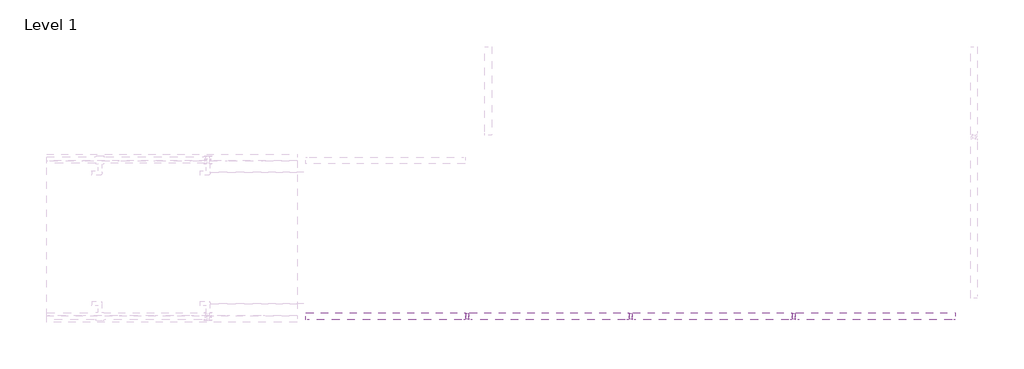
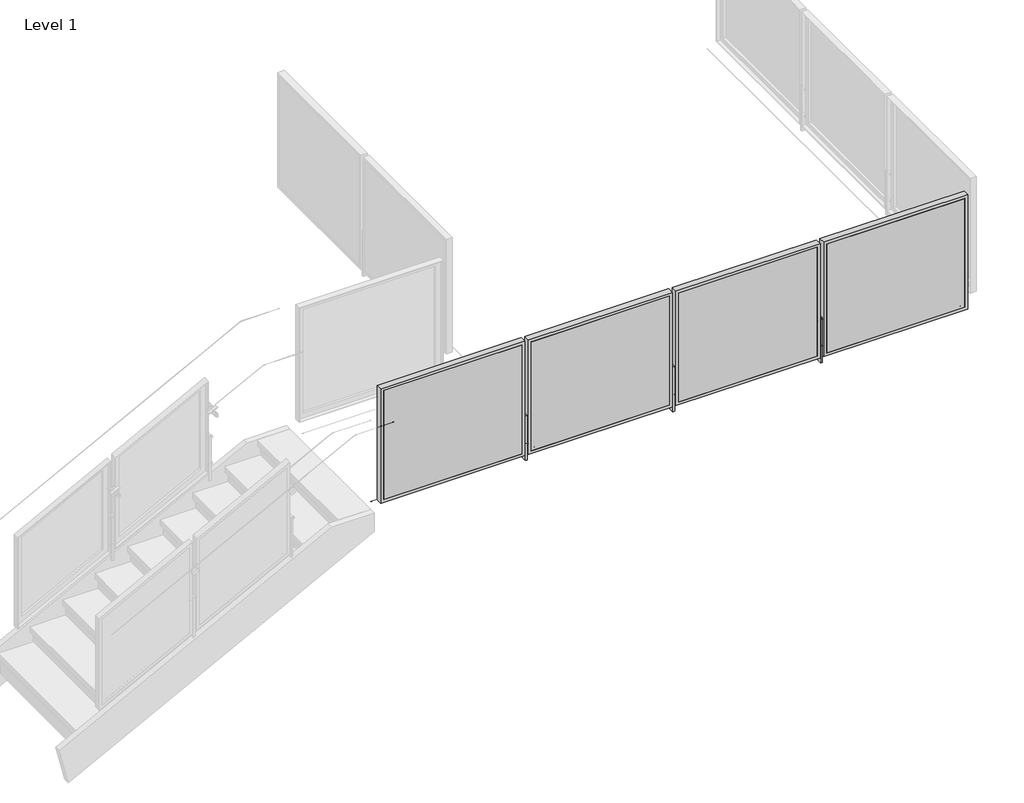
# One storey, part 12 of 37: 1 railing.
"""IFC4 building model written with IfcOpenShell, lengths in millimetres."""

from ifc_helpers import new_model, si_unit, point, frame, frame_2d, origin, place, context, project, spatial, polyline, circle_curve, trimmed, segment, composite_curve, outline, extrude, faceted_brep, element, save
from ifc_brep_helpers import plane_surface, cylinder_surface, advanced_brep

model = new_model("IFC4")

# Units and contexts
model_context = context("Model", 3, world=origin())
ifc_project = project(units=[si_unit("LENGTHUNIT", "METRE", prefix="MILLI")], contexts=[model_context])

# Site, building, storey
site = spatial("IfcSite", under=ifc_project)
building = spatial("IfcBuilding", under=site)
storey = spatial("IfcBuildingStorey", under=building, Name="Level 1", Elevation=0.0)

# Railing
placement = place(None, origin())
element("IfcRailing", 1, ObjectType="Metal-Panel-VIVA-FRAME-Slab-Top-Weld-Straight", at=placement, inside=storey, context=model_context, shape_type="SolidModel", body=[
    extrude(outline(composite_curve([segment(trimmed(circle_curve(frame_2d((-31331.5771681, 3047.746)), 0.254), [point((-31331.8311681, 3047.746))], [point((-31331.3231681, 3047.746))], False, "CARTESIAN"), True, "CONTINUOUS"), segment(trimmed(circle_curve(frame_2d((-31331.5771681, 3047.746)), 0.254), [point((-31331.3231681, 3047.746))], [point((-31331.8311681, 3047.746))], False, "CARTESIAN"), True, "CONTINUOUS")], self_intersect=False)), frame((-7423.2063244, 0.0, 0.0), z_axis=(1.0, 0.0, 0.0), x_axis=(0.0, 1.0, 0.0)), (0.0, 0.0, 1.0), 5080.0),
    extrude(outline(composite_curve([segment(trimmed(circle_curve(frame_2d((-31331.5771681, 3047.746)), 0.254), [point((-31331.8311681, 3047.746))], [point((-31331.3231681, 3047.746))], False, "CARTESIAN"), True, "CONTINUOUS"), segment(trimmed(circle_curve(frame_2d((-31331.5771681, 3047.746)), 0.254), [point((-31331.3231681, 3047.746))], [point((-31331.8311681, 3047.746))], False, "CARTESIAN"), True, "CONTINUOUS")], self_intersect=False)), frame((-7423.2063244, 0.0, 0.0), z_axis=(1.0, 0.0, 0.0), x_axis=(0.0, 1.0, 0.0)), (0.0, 0.0, 1.0), 5080.0),
    extrude(outline(polyline([(-3572.3798675, -31454.3875681), (-3572.3798675, -31451.3875681), (-2384.0327814, -31451.3875681), (-2384.0327814, -31454.3875681), (-3572.3798675, -31454.3875681)])), frame((0.0, 0.0, 3124.1959569), z_axis=(0.0, 0.0, 1.0), x_axis=(1.0, 0.0, 0.0)), (0.0, 0.0, 1.0), 990.5826861),
    faceted_brep([(-3597.7798675, -31454.3875681, 4140.1786431), (-3597.7798675, -31454.3875681, 3098.7959569), (-2358.6327814, -31454.3875681, 3098.7959569), (-2358.6327814, -31454.3875681, 4140.1786431), (-3572.3798675, -31454.3875681, 4114.7786431), (-2384.0327814, -31454.3875681, 4114.7786431), (-2384.0327814, -31454.3875681, 3124.1959569), (-3572.3798675, -31454.3875681, 3124.1959569), (-2384.0327814, -31451.3875681, 3124.1959569), (-3572.3798675, -31451.3875681, 3124.1959569), (-2384.0327814, -31451.3875681, 4114.7786431), (-3572.3798675, -31451.3875681, 4114.7786431), (-3591.7854675, -31400.5875681, 3104.7903569), (-3591.7854675, -31431.3977681, 3104.7903569), (-2364.6271814, -31431.3977681, 3104.7903569), (-2364.6271814, -31400.5875681, 3104.7903569), (-2364.6271814, -31431.3977681, 4134.1842431), (-2364.6271814, -31400.5875681, 4134.1842431), (-3591.7854675, -31400.5875681, 4134.1842431), (-3591.7854675, -31431.3977681, 4134.1842431), (-2358.6327814, -31400.5875681, 3098.7959569), (-3597.7798675, -31400.5875681, 3098.7959569), (-3597.7798675, -31400.5875681, 4140.1786431), (-2358.6327814, -31400.5875681, 4140.1786431), (-3546.9798675, -31451.3875681, 4089.3786431), (-2409.4327814, -31451.3875681, 4089.3786431), (-2409.4327814, -31451.3875681, 3149.5959569), (-3546.9798675, -31451.3875681, 3149.5959569), (-2409.4327814, -31431.3977681, 3149.5959569), (-2409.4327814, -31431.3977681, 4089.3786431), (-3546.9798675, -31431.3977681, 4089.3786431), (-3546.9798675, -31431.3977681, 3149.5959569)], [[[0, 1, 2, 3], [4, 5, 6, 7]], [[7, 6, 8, 9]], [[6, 5, 10, 8]], [[5, 4, 11, 10]], [[4, 7, 9, 11]], [[12, 13, 14, 15]], [[15, 14, 16, 17]], [[13, 12, 18, 19]], [[20, 21, 22, 23], [12, 15, 17, 18]], [[21, 1, 0, 22]], [[21, 20, 2, 1]], [[2, 20, 23, 3]], [[22, 0, 3, 23]], [[11, 9, 8, 10], [24, 25, 26, 27]], [[14, 13, 19, 16], [28, 29, 30, 31]], [[19, 18, 17, 16]], [[25, 24, 30, 29]], [[26, 25, 29, 28]], [[27, 26, 28, 31]], [[24, 27, 31, 30]]]),
    advanced_brep(
    [(-3639.3937244, -31427.4875681, 3178.1496), (-3639.3937244, -31427.4875681, 3197.2504), (-3639.3937244, -31427.4875681, 3187.7), (-3634.6185244, -31427.4875681, 3178.1496), (-3634.6185244, -31427.4875681, 3197.2504), (-3634.6185244, -31427.4875681, 3182.9248), (-3634.6185244, -31427.4875681, 3192.4752), (-3591.7941244, -31427.4875681, 3182.9248), (-3591.7941244, -31427.4875681, 3192.4752), (-3591.7941244, -31427.4875681, 3178.1496), (-3591.7941244, -31427.4875681, 3197.2504), (-3587.0189244, -31427.4875681, 3178.1496), (-3587.0189244, -31427.4875681, 3197.2504), (-3587.0189244, -31427.4875681, 3187.7)],
    [
        (0, 1, circle_curve(frame((-3639.3937244, -31427.4875681, 3187.7), z_axis=(-1.0, 0.0, 0.0), x_axis=(0.0, 0.0, 1.0)), 9.5504)),
        (1, 2),
        (2, 0),
        (1, 0, circle_curve(frame((-3639.3937244, -31427.4875681, 3187.7), z_axis=(-1.0, 0.0, 0.0), x_axis=(0.0, 0.0, 1.0)), 9.5504)),
        (3, 4, circle_curve(frame((-3634.6185244, -31427.4875681, 3187.7), z_axis=(-1.0, 0.0, 0.0), x_axis=(0.0, 0.0, 1.0)), 9.5504)),
        (4, 1),
        (0, 3),
        (4, 3, circle_curve(frame((-3634.6185244, -31427.4875681, 3187.7), z_axis=(-1.0, 0.0, 0.0), x_axis=(0.0, 0.0, 1.0)), 9.5504)),
        (5, 6, circle_curve(frame((-3634.6185244, -31427.4875681, 3187.7), z_axis=(-1.0, 0.0, 0.0), x_axis=(0.0, 0.0, 1.0)), 4.7752)),
        (6, 4),
        (3, 5),
        (6, 5, circle_curve(frame((-3634.6185244, -31427.4875681, 3187.7), z_axis=(-1.0, 0.0, 0.0), x_axis=(0.0, 0.0, 1.0)), 4.7752)),
        (7, 8, circle_curve(frame((-3591.7941244, -31427.4875681, 3187.7), z_axis=(-1.0, 0.0, 0.0), x_axis=(0.0, 0.0, 1.0)), 4.7752)),
        (8, 6),
        (5, 7),
        (8, 7, circle_curve(frame((-3591.7941244, -31427.4875681, 3187.7), z_axis=(-1.0, 0.0, 0.0), x_axis=(0.0, 0.0, 1.0)), 4.7752)),
        (9, 10, circle_curve(frame((-3591.7941244, -31427.4875681, 3187.7), z_axis=(-1.0, 0.0, 0.0), x_axis=(0.0, 0.0, 1.0)), 9.5504)),
        (10, 8),
        (7, 9),
        (10, 9, circle_curve(frame((-3591.7941244, -31427.4875681, 3187.7), z_axis=(-1.0, 0.0, 0.0), x_axis=(0.0, 0.0, 1.0)), 9.5504)),
        (11, 12, circle_curve(frame((-3587.0189244, -31427.4875681, 3187.7), z_axis=(-1.0, 0.0, 0.0), x_axis=(0.0, 0.0, 1.0)), 9.5504)),
        (12, 10),
        (9, 11),
        (12, 11, circle_curve(frame((-3587.0189244, -31427.4875681, 3187.7), z_axis=(-1.0, 0.0, 0.0), x_axis=(0.0, 0.0, 1.0)), 9.5504)),
        (13, 12),
        (11, 13),
    ],
    [
        plane_surface(frame((-3639.3937244, -31427.4875681, 3187.7), z_axis=(-1.0, 0.0, 0.0), x_axis=(0.0, 0.0, 1.0))),
        cylinder_surface(frame((-7030.9740816, -31427.4875681, 3187.7), z_axis=(1.0, 0.0, 0.0), x_axis=(0.0, 0.0, 1.0)), 9.5504),
        plane_surface(frame((-3634.6185244, -31427.4875681, 3187.7), z_axis=(1.0, 0.0, 0.0), x_axis=(0.0, 0.0, 1.0))),
        cylinder_surface(frame((-7030.9740816, -31427.4875681, 3187.7), z_axis=(1.0, 0.0, 0.0), x_axis=(0.0, 0.0, 1.0)), 4.7752),
        plane_surface(frame((-3591.7941244, -31427.4875681, 3187.7), z_axis=(-1.0, 0.0, 0.0), x_axis=(0.0, 0.0, 1.0))),
        plane_surface(frame((-3587.0189244, -31427.4875681, 3187.7), z_axis=(1.0, 0.0, 0.0), x_axis=(0.0, 0.0, 1.0))),
    ],
    [
        (0, [[1, 2, 3]]),
        (0, [[4, -3, -2]]),
        (1, [[5, 6, -1, 7]]),
        (1, [[8, -7, -4, -6]]),
        (2, [[9, 10, -5, 11]]),
        (2, [[12, -11, -8, -10]]),
        (3, [[13, 14, -9, 15]]),
        (3, [[16, -15, -12, -14]]),
        (4, [[17, 18, -13, 19]]),
        (4, [[20, -19, -16, -18]]),
        (1, [[21, 22, -17, 23]]),
        (1, [[24, -23, -20, -22]]),
        (5, [[25, -21, 26]]),
        (5, [[-26, -24, -25]]),
    ],
),
    advanced_brep(
    [(-3639.3937244, -31427.4875681, 3419.4496), (-3639.3937244, -31427.4875681, 3438.5504), (-3639.3937244, -31427.4875681, 3429.0), (-3634.6185244, -31427.4875681, 3419.4496), (-3634.6185244, -31427.4875681, 3438.5504), (-3634.6185244, -31427.4875681, 3424.2248), (-3634.6185244, -31427.4875681, 3433.7752), (-3591.7941244, -31427.4875681, 3424.2248), (-3591.7941244, -31427.4875681, 3433.7752), (-3591.7941244, -31427.4875681, 3419.4496), (-3591.7941244, -31427.4875681, 3438.5504), (-3587.0189244, -31427.4875681, 3419.4496), (-3587.0189244, -31427.4875681, 3438.5504), (-3587.0189244, -31427.4875681, 3429.0)],
    [
        (0, 1, circle_curve(frame((-3639.3937244, -31427.4875681, 3429.0), z_axis=(-1.0, 0.0, 0.0), x_axis=(0.0, 0.0, 1.0)), 9.5504)),
        (1, 2),
        (2, 0),
        (1, 0, circle_curve(frame((-3639.3937244, -31427.4875681, 3429.0), z_axis=(-1.0, 0.0, 0.0), x_axis=(0.0, 0.0, 1.0)), 9.5504)),
        (3, 4, circle_curve(frame((-3634.6185244, -31427.4875681, 3429.0), z_axis=(-1.0, 0.0, 0.0), x_axis=(0.0, 0.0, 1.0)), 9.5504)),
        (4, 1),
        (0, 3),
        (4, 3, circle_curve(frame((-3634.6185244, -31427.4875681, 3429.0), z_axis=(-1.0, 0.0, 0.0), x_axis=(0.0, 0.0, 1.0)), 9.5504)),
        (5, 6, circle_curve(frame((-3634.6185244, -31427.4875681, 3429.0), z_axis=(-1.0, 0.0, 0.0), x_axis=(0.0, 0.0, 1.0)), 4.7752)),
        (6, 4),
        (3, 5),
        (6, 5, circle_curve(frame((-3634.6185244, -31427.4875681, 3429.0), z_axis=(-1.0, 0.0, 0.0), x_axis=(0.0, 0.0, 1.0)), 4.7752)),
        (7, 8, circle_curve(frame((-3591.7941244, -31427.4875681, 3429.0), z_axis=(-1.0, 0.0, 0.0), x_axis=(0.0, 0.0, 1.0)), 4.7752)),
        (8, 6),
        (5, 7),
        (8, 7, circle_curve(frame((-3591.7941244, -31427.4875681, 3429.0), z_axis=(-1.0, 0.0, 0.0), x_axis=(0.0, 0.0, 1.0)), 4.7752)),
        (9, 10, circle_curve(frame((-3591.7941244, -31427.4875681, 3429.0), z_axis=(-1.0, 0.0, 0.0), x_axis=(0.0, 0.0, 1.0)), 9.5504)),
        (10, 8),
        (7, 9),
        (10, 9, circle_curve(frame((-3591.7941244, -31427.4875681, 3429.0), z_axis=(-1.0, 0.0, 0.0), x_axis=(0.0, 0.0, 1.0)), 9.5504)),
        (11, 12, circle_curve(frame((-3587.0189244, -31427.4875681, 3429.0), z_axis=(-1.0, 0.0, 0.0), x_axis=(0.0, 0.0, 1.0)), 9.5504)),
        (12, 10),
        (9, 11),
        (12, 11, circle_curve(frame((-3587.0189244, -31427.4875681, 3429.0), z_axis=(-1.0, 0.0, 0.0), x_axis=(0.0, 0.0, 1.0)), 9.5504)),
        (13, 12),
        (11, 13),
    ],
    [
        plane_surface(frame((-3639.3937244, -31427.4875681, 3429.0), z_axis=(-1.0, 0.0, 0.0), x_axis=(0.0, 0.0, 1.0))),
        cylinder_surface(frame((-7030.9740816, -31427.4875681, 3429.0), z_axis=(1.0, 0.0, 0.0), x_axis=(0.0, 0.0, 1.0)), 9.5504),
        plane_surface(frame((-3634.6185244, -31427.4875681, 3429.0), z_axis=(1.0, 0.0, 0.0), x_axis=(0.0, 0.0, 1.0))),
        cylinder_surface(frame((-7030.9740816, -31427.4875681, 3429.0), z_axis=(1.0, 0.0, 0.0), x_axis=(0.0, 0.0, 1.0)), 4.7752),
        plane_surface(frame((-3591.7941244, -31427.4875681, 3429.0), z_axis=(-1.0, 0.0, 0.0), x_axis=(0.0, 0.0, 1.0))),
        plane_surface(frame((-3587.0189244, -31427.4875681, 3429.0), z_axis=(1.0, 0.0, 0.0), x_axis=(0.0, 0.0, 1.0))),
    ],
    [
        (0, [[1, 2, 3]]),
        (0, [[4, -3, -2]]),
        (1, [[5, 6, -1, 7]]),
        (1, [[8, -7, -4, -6]]),
        (2, [[9, 10, -5, 11]]),
        (2, [[12, -11, -8, -10]]),
        (3, [[13, 14, -9, 15]]),
        (3, [[16, -15, -12, -14]]),
        (4, [[17, 18, -13, 19]]),
        (4, [[20, -19, -16, -18]]),
        (1, [[21, 22, -17, 23]]),
        (1, [[24, -23, -20, -22]]),
        (5, [[25, -21, 26]]),
        (5, [[-26, -24, -25]]),
    ],
),
    extrude(outline(polyline([(-3621.1459161, -31405.2625681), (-3605.2667328, -31405.2625681), (-3605.2667328, -31449.7125681), (-3621.1459161, -31449.7125681), (-3621.1459161, -31405.2625681)])), frame((0.0, 0.0, 3048.0), z_axis=(0.0, 0.0, 1.0), x_axis=(1.0, 0.0, 0.0)), (0.0, 0.0, 1.0), 406.4),
    extrude(outline(polyline([(-4842.3798675, -31454.3875681), (-4842.3798675, -31451.3875681), (-3654.0327814, -31451.3875681), (-3654.0327814, -31454.3875681), (-4842.3798675, -31454.3875681)])), frame((0.0, 0.0, 3124.1959569), z_axis=(0.0, 0.0, 1.0), x_axis=(1.0, 0.0, 0.0)), (0.0, 0.0, 1.0), 990.5826861),
    faceted_brep([(-4867.7798675, -31454.3875681, 4140.1786431), (-4867.7798675, -31454.3875681, 3098.7959569), (-3628.6327814, -31454.3875681, 3098.7959569), (-3628.6327814, -31454.3875681, 4140.1786431), (-4842.3798675, -31454.3875681, 4114.7786431), (-3654.0327814, -31454.3875681, 4114.7786431), (-3654.0327814, -31454.3875681, 3124.1959569), (-4842.3798675, -31454.3875681, 3124.1959569), (-3654.0327814, -31451.3875681, 3124.1959569), (-4842.3798675, -31451.3875681, 3124.1959569), (-3654.0327814, -31451.3875681, 4114.7786431), (-4842.3798675, -31451.3875681, 4114.7786431), (-4861.7854675, -31400.5875681, 3104.7903569), (-4861.7854675, -31431.3977681, 3104.7903569), (-3634.6271814, -31431.3977681, 3104.7903569), (-3634.6271814, -31400.5875681, 3104.7903569), (-3634.6271814, -31431.3977681, 4134.1842431), (-3634.6271814, -31400.5875681, 4134.1842431), (-4861.7854675, -31400.5875681, 4134.1842431), (-4861.7854675, -31431.3977681, 4134.1842431), (-3628.6327814, -31400.5875681, 3098.7959569), (-4867.7798675, -31400.5875681, 3098.7959569), (-4867.7798675, -31400.5875681, 4140.1786431), (-3628.6327814, -31400.5875681, 4140.1786431), (-4816.9798675, -31451.3875681, 4089.3786431), (-3679.4327814, -31451.3875681, 4089.3786431), (-3679.4327814, -31451.3875681, 3149.5959569), (-4816.9798675, -31451.3875681, 3149.5959569), (-3679.4327814, -31431.3977681, 3149.5959569), (-3679.4327814, -31431.3977681, 4089.3786431), (-4816.9798675, -31431.3977681, 4089.3786431), (-4816.9798675, -31431.3977681, 3149.5959569)], [[[0, 1, 2, 3], [4, 5, 6, 7]], [[7, 6, 8, 9]], [[6, 5, 10, 8]], [[5, 4, 11, 10]], [[4, 7, 9, 11]], [[12, 13, 14, 15]], [[15, 14, 16, 17]], [[13, 12, 18, 19]], [[20, 21, 22, 23], [12, 15, 17, 18]], [[21, 1, 0, 22]], [[21, 20, 2, 1]], [[2, 20, 23, 3]], [[22, 0, 3, 23]], [[11, 9, 8, 10], [24, 25, 26, 27]], [[14, 13, 19, 16], [28, 29, 30, 31]], [[19, 18, 17, 16]], [[25, 24, 30, 29]], [[26, 25, 29, 28]], [[27, 26, 28, 31]], [[24, 27, 31, 30]]]),
    advanced_brep(
    [(-4909.3937244, -31427.4875681, 3178.1496), (-4909.3937244, -31427.4875681, 3197.2504), (-4909.3937244, -31427.4875681, 3187.7), (-4904.6185244, -31427.4875681, 3178.1496), (-4904.6185244, -31427.4875681, 3197.2504), (-4904.6185244, -31427.4875681, 3182.9248), (-4904.6185244, -31427.4875681, 3192.4752), (-4861.7941244, -31427.4875681, 3182.9248), (-4861.7941244, -31427.4875681, 3192.4752), (-4861.7941244, -31427.4875681, 3178.1496), (-4861.7941244, -31427.4875681, 3197.2504), (-4857.0189244, -31427.4875681, 3178.1496), (-4857.0189244, -31427.4875681, 3197.2504), (-4857.0189244, -31427.4875681, 3187.7)],
    [
        (0, 1, circle_curve(frame((-4909.3937244, -31427.4875681, 3187.7), z_axis=(-1.0, 0.0, 0.0), x_axis=(0.0, 0.0, 1.0)), 9.5504)),
        (1, 2),
        (2, 0),
        (1, 0, circle_curve(frame((-4909.3937244, -31427.4875681, 3187.7), z_axis=(-1.0, 0.0, 0.0), x_axis=(0.0, 0.0, 1.0)), 9.5504)),
        (3, 4, circle_curve(frame((-4904.6185244, -31427.4875681, 3187.7), z_axis=(-1.0, 0.0, 0.0), x_axis=(0.0, 0.0, 1.0)), 9.5504)),
        (4, 1),
        (0, 3),
        (4, 3, circle_curve(frame((-4904.6185244, -31427.4875681, 3187.7), z_axis=(-1.0, 0.0, 0.0), x_axis=(0.0, 0.0, 1.0)), 9.5504)),
        (5, 6, circle_curve(frame((-4904.6185244, -31427.4875681, 3187.7), z_axis=(-1.0, 0.0, 0.0), x_axis=(0.0, 0.0, 1.0)), 4.7752)),
        (6, 4),
        (3, 5),
        (6, 5, circle_curve(frame((-4904.6185244, -31427.4875681, 3187.7), z_axis=(-1.0, 0.0, 0.0), x_axis=(0.0, 0.0, 1.0)), 4.7752)),
        (7, 8, circle_curve(frame((-4861.7941244, -31427.4875681, 3187.7), z_axis=(-1.0, 0.0, 0.0), x_axis=(0.0, 0.0, 1.0)), 4.7752)),
        (8, 6),
        (5, 7),
        (8, 7, circle_curve(frame((-4861.7941244, -31427.4875681, 3187.7), z_axis=(-1.0, 0.0, 0.0), x_axis=(0.0, 0.0, 1.0)), 4.7752)),
        (9, 10, circle_curve(frame((-4861.7941244, -31427.4875681, 3187.7), z_axis=(-1.0, 0.0, 0.0), x_axis=(0.0, 0.0, 1.0)), 9.5504)),
        (10, 8),
        (7, 9),
        (10, 9, circle_curve(frame((-4861.7941244, -31427.4875681, 3187.7), z_axis=(-1.0, 0.0, 0.0), x_axis=(0.0, 0.0, 1.0)), 9.5504)),
        (11, 12, circle_curve(frame((-4857.0189244, -31427.4875681, 3187.7), z_axis=(-1.0, 0.0, 0.0), x_axis=(0.0, 0.0, 1.0)), 9.5504)),
        (12, 10),
        (9, 11),
        (12, 11, circle_curve(frame((-4857.0189244, -31427.4875681, 3187.7), z_axis=(-1.0, 0.0, 0.0), x_axis=(0.0, 0.0, 1.0)), 9.5504)),
        (13, 12),
        (11, 13),
    ],
    [
        plane_surface(frame((-4909.3937244, -31427.4875681, 3187.7), z_axis=(-1.0, 0.0, 0.0), x_axis=(0.0, 0.0, 1.0))),
        cylinder_surface(frame((-8300.9740816, -31427.4875681, 3187.7), z_axis=(1.0, 0.0, 0.0), x_axis=(0.0, 0.0, 1.0)), 9.5504),
        plane_surface(frame((-4904.6185244, -31427.4875681, 3187.7), z_axis=(1.0, 0.0, 0.0), x_axis=(0.0, 0.0, 1.0))),
        cylinder_surface(frame((-8300.9740816, -31427.4875681, 3187.7), z_axis=(1.0, 0.0, 0.0), x_axis=(0.0, 0.0, 1.0)), 4.7752),
        plane_surface(frame((-4861.7941244, -31427.4875681, 3187.7), z_axis=(-1.0, 0.0, 0.0), x_axis=(0.0, 0.0, 1.0))),
        plane_surface(frame((-4857.0189244, -31427.4875681, 3187.7), z_axis=(1.0, 0.0, 0.0), x_axis=(0.0, 0.0, 1.0))),
    ],
    [
        (0, [[1, 2, 3]]),
        (0, [[4, -3, -2]]),
        (1, [[5, 6, -1, 7]]),
        (1, [[8, -7, -4, -6]]),
        (2, [[9, 10, -5, 11]]),
        (2, [[12, -11, -8, -10]]),
        (3, [[13, 14, -9, 15]]),
        (3, [[16, -15, -12, -14]]),
        (4, [[17, 18, -13, 19]]),
        (4, [[20, -19, -16, -18]]),
        (1, [[21, 22, -17, 23]]),
        (1, [[24, -23, -20, -22]]),
        (5, [[25, -21, 26]]),
        (5, [[-26, -24, -25]]),
    ],
),
    advanced_brep(
    [(-4909.3937244, -31427.4875681, 3419.4496), (-4909.3937244, -31427.4875681, 3438.5504), (-4909.3937244, -31427.4875681, 3429.0), (-4904.6185244, -31427.4875681, 3419.4496), (-4904.6185244, -31427.4875681, 3438.5504), (-4904.6185244, -31427.4875681, 3424.2248), (-4904.6185244, -31427.4875681, 3433.7752), (-4861.7941244, -31427.4875681, 3424.2248), (-4861.7941244, -31427.4875681, 3433.7752), (-4861.7941244, -31427.4875681, 3419.4496), (-4861.7941244, -31427.4875681, 3438.5504), (-4857.0189244, -31427.4875681, 3419.4496), (-4857.0189244, -31427.4875681, 3438.5504), (-4857.0189244, -31427.4875681, 3429.0)],
    [
        (0, 1, circle_curve(frame((-4909.3937244, -31427.4875681, 3429.0), z_axis=(-1.0, 0.0, 0.0), x_axis=(0.0, 0.0, 1.0)), 9.5504)),
        (1, 2),
        (2, 0),
        (1, 0, circle_curve(frame((-4909.3937244, -31427.4875681, 3429.0), z_axis=(-1.0, 0.0, 0.0), x_axis=(0.0, 0.0, 1.0)), 9.5504)),
        (3, 4, circle_curve(frame((-4904.6185244, -31427.4875681, 3429.0), z_axis=(-1.0, 0.0, 0.0), x_axis=(0.0, 0.0, 1.0)), 9.5504)),
        (4, 1),
        (0, 3),
        (4, 3, circle_curve(frame((-4904.6185244, -31427.4875681, 3429.0), z_axis=(-1.0, 0.0, 0.0), x_axis=(0.0, 0.0, 1.0)), 9.5504)),
        (5, 6, circle_curve(frame((-4904.6185244, -31427.4875681, 3429.0), z_axis=(-1.0, 0.0, 0.0), x_axis=(0.0, 0.0, 1.0)), 4.7752)),
        (6, 4),
        (3, 5),
        (6, 5, circle_curve(frame((-4904.6185244, -31427.4875681, 3429.0), z_axis=(-1.0, 0.0, 0.0), x_axis=(0.0, 0.0, 1.0)), 4.7752)),
        (7, 8, circle_curve(frame((-4861.7941244, -31427.4875681, 3429.0), z_axis=(-1.0, 0.0, 0.0), x_axis=(0.0, 0.0, 1.0)), 4.7752)),
        (8, 6),
        (5, 7),
        (8, 7, circle_curve(frame((-4861.7941244, -31427.4875681, 3429.0), z_axis=(-1.0, 0.0, 0.0), x_axis=(0.0, 0.0, 1.0)), 4.7752)),
        (9, 10, circle_curve(frame((-4861.7941244, -31427.4875681, 3429.0), z_axis=(-1.0, 0.0, 0.0), x_axis=(0.0, 0.0, 1.0)), 9.5504)),
        (10, 8),
        (7, 9),
        (10, 9, circle_curve(frame((-4861.7941244, -31427.4875681, 3429.0), z_axis=(-1.0, 0.0, 0.0), x_axis=(0.0, 0.0, 1.0)), 9.5504)),
        (11, 12, circle_curve(frame((-4857.0189244, -31427.4875681, 3429.0), z_axis=(-1.0, 0.0, 0.0), x_axis=(0.0, 0.0, 1.0)), 9.5504)),
        (12, 10),
        (9, 11),
        (12, 11, circle_curve(frame((-4857.0189244, -31427.4875681, 3429.0), z_axis=(-1.0, 0.0, 0.0), x_axis=(0.0, 0.0, 1.0)), 9.5504)),
        (13, 12),
        (11, 13),
    ],
    [
        plane_surface(frame((-4909.3937244, -31427.4875681, 3429.0), z_axis=(-1.0, 0.0, 0.0), x_axis=(0.0, 0.0, 1.0))),
        cylinder_surface(frame((-8300.9740816, -31427.4875681, 3429.0), z_axis=(1.0, 0.0, 0.0), x_axis=(0.0, 0.0, 1.0)), 9.5504),
        plane_surface(frame((-4904.6185244, -31427.4875681, 3429.0), z_axis=(1.0, 0.0, 0.0), x_axis=(0.0, 0.0, 1.0))),
        cylinder_surface(frame((-8300.9740816, -31427.4875681, 3429.0), z_axis=(1.0, 0.0, 0.0), x_axis=(0.0, 0.0, 1.0)), 4.7752),
        plane_surface(frame((-4861.7941244, -31427.4875681, 3429.0), z_axis=(-1.0, 0.0, 0.0), x_axis=(0.0, 0.0, 1.0))),
        plane_surface(frame((-4857.0189244, -31427.4875681, 3429.0), z_axis=(1.0, 0.0, 0.0), x_axis=(0.0, 0.0, 1.0))),
    ],
    [
        (0, [[1, 2, 3]]),
        (0, [[4, -3, -2]]),
        (1, [[5, 6, -1, 7]]),
        (1, [[8, -7, -4, -6]]),
        (2, [[9, 10, -5, 11]]),
        (2, [[12, -11, -8, -10]]),
        (3, [[13, 14, -9, 15]]),
        (3, [[16, -15, -12, -14]]),
        (4, [[17, 18, -13, 19]]),
        (4, [[20, -19, -16, -18]]),
        (1, [[21, 22, -17, 23]]),
        (1, [[24, -23, -20, -22]]),
        (5, [[25, -21, 26]]),
        (5, [[-26, -24, -25]]),
    ],
),
    extrude(outline(polyline([(-4891.1459161, -31405.2625681), (-4875.2667328, -31405.2625681), (-4875.2667328, -31449.7125681), (-4891.1459161, -31449.7125681), (-4891.1459161, -31405.2625681)])), frame((0.0, 0.0, 3048.0), z_axis=(0.0, 0.0, 1.0), x_axis=(1.0, 0.0, 0.0)), (0.0, 0.0, 1.0), 406.4),
    extrude(outline(polyline([(-6112.3798675, -31454.3875681), (-6112.3798675, -31451.3875681), (-4924.0327814, -31451.3875681), (-4924.0327814, -31454.3875681), (-6112.3798675, -31454.3875681)])), frame((0.0, 0.0, 3124.1959569), z_axis=(0.0, 0.0, 1.0), x_axis=(1.0, 0.0, 0.0)), (0.0, 0.0, 1.0), 990.5826861),
    faceted_brep([(-6137.7798675, -31454.3875681, 4140.1786431), (-6137.7798675, -31454.3875681, 3098.7959569), (-4898.6327814, -31454.3875681, 3098.7959569), (-4898.6327814, -31454.3875681, 4140.1786431), (-6112.3798675, -31454.3875681, 4114.7786431), (-4924.0327814, -31454.3875681, 4114.7786431), (-4924.0327814, -31454.3875681, 3124.1959569), (-6112.3798675, -31454.3875681, 3124.1959569), (-4924.0327814, -31451.3875681, 3124.1959569), (-6112.3798675, -31451.3875681, 3124.1959569), (-4924.0327814, -31451.3875681, 4114.7786431), (-6112.3798675, -31451.3875681, 4114.7786431), (-6131.7854675, -31400.5875681, 3104.7903569), (-6131.7854675, -31431.3977681, 3104.7903569), (-4904.6271814, -31431.3977681, 3104.7903569), (-4904.6271814, -31400.5875681, 3104.7903569), (-4904.6271814, -31431.3977681, 4134.1842431), (-4904.6271814, -31400.5875681, 4134.1842431), (-6131.7854675, -31400.5875681, 4134.1842431), (-6131.7854675, -31431.3977681, 4134.1842431), (-4898.6327814, -31400.5875681, 3098.7959569), (-6137.7798675, -31400.5875681, 3098.7959569), (-6137.7798675, -31400.5875681, 4140.1786431), (-4898.6327814, -31400.5875681, 4140.1786431), (-6086.9798675, -31451.3875681, 4089.3786431), (-4949.4327814, -31451.3875681, 4089.3786431), (-4949.4327814, -31451.3875681, 3149.5959569), (-6086.9798675, -31451.3875681, 3149.5959569), (-4949.4327814, -31431.3977681, 3149.5959569), (-4949.4327814, -31431.3977681, 4089.3786431), (-6086.9798675, -31431.3977681, 4089.3786431), (-6086.9798675, -31431.3977681, 3149.5959569)], [[[0, 1, 2, 3], [4, 5, 6, 7]], [[7, 6, 8, 9]], [[6, 5, 10, 8]], [[5, 4, 11, 10]], [[4, 7, 9, 11]], [[12, 13, 14, 15]], [[15, 14, 16, 17]], [[13, 12, 18, 19]], [[20, 21, 22, 23], [12, 15, 17, 18]], [[21, 1, 0, 22]], [[21, 20, 2, 1]], [[2, 20, 23, 3]], [[22, 0, 3, 23]], [[11, 9, 8, 10], [24, 25, 26, 27]], [[14, 13, 19, 16], [28, 29, 30, 31]], [[19, 18, 17, 16]], [[25, 24, 30, 29]], [[26, 25, 29, 28]], [[27, 26, 28, 31]], [[24, 27, 31, 30]]]),
    advanced_brep(
    [(-6179.3937244, -31427.4875681, 3178.1496), (-6179.3937244, -31427.4875681, 3197.2504), (-6179.3937244, -31427.4875681, 3187.7), (-6174.6185244, -31427.4875681, 3178.1496), (-6174.6185244, -31427.4875681, 3197.2504), (-6174.6185244, -31427.4875681, 3182.9248), (-6174.6185244, -31427.4875681, 3192.4752), (-6131.7941244, -31427.4875681, 3182.9248), (-6131.7941244, -31427.4875681, 3192.4752), (-6131.7941244, -31427.4875681, 3178.1496), (-6131.7941244, -31427.4875681, 3197.2504), (-6127.0189244, -31427.4875681, 3178.1496), (-6127.0189244, -31427.4875681, 3197.2504), (-6127.0189244, -31427.4875681, 3187.7)],
    [
        (0, 1, circle_curve(frame((-6179.3937244, -31427.4875681, 3187.7), z_axis=(-1.0, 0.0, 0.0), x_axis=(0.0, 0.0, 1.0)), 9.5504)),
        (1, 2),
        (2, 0),
        (1, 0, circle_curve(frame((-6179.3937244, -31427.4875681, 3187.7), z_axis=(-1.0, 0.0, 0.0), x_axis=(0.0, 0.0, 1.0)), 9.5504)),
        (3, 4, circle_curve(frame((-6174.6185244, -31427.4875681, 3187.7), z_axis=(-1.0, 0.0, 0.0), x_axis=(0.0, 0.0, 1.0)), 9.5504)),
        (4, 1),
        (0, 3),
        (4, 3, circle_curve(frame((-6174.6185244, -31427.4875681, 3187.7), z_axis=(-1.0, 0.0, 0.0), x_axis=(0.0, 0.0, 1.0)), 9.5504)),
        (5, 6, circle_curve(frame((-6174.6185244, -31427.4875681, 3187.7), z_axis=(-1.0, 0.0, 0.0), x_axis=(0.0, 0.0, 1.0)), 4.7752)),
        (6, 4),
        (3, 5),
        (6, 5, circle_curve(frame((-6174.6185244, -31427.4875681, 3187.7), z_axis=(-1.0, 0.0, 0.0), x_axis=(0.0, 0.0, 1.0)), 4.7752)),
        (7, 8, circle_curve(frame((-6131.7941244, -31427.4875681, 3187.7), z_axis=(-1.0, 0.0, 0.0), x_axis=(0.0, 0.0, 1.0)), 4.7752)),
        (8, 6),
        (5, 7),
        (8, 7, circle_curve(frame((-6131.7941244, -31427.4875681, 3187.7), z_axis=(-1.0, 0.0, 0.0), x_axis=(0.0, 0.0, 1.0)), 4.7752)),
        (9, 10, circle_curve(frame((-6131.7941244, -31427.4875681, 3187.7), z_axis=(-1.0, 0.0, 0.0), x_axis=(0.0, 0.0, 1.0)), 9.5504)),
        (10, 8),
        (7, 9),
        (10, 9, circle_curve(frame((-6131.7941244, -31427.4875681, 3187.7), z_axis=(-1.0, 0.0, 0.0), x_axis=(0.0, 0.0, 1.0)), 9.5504)),
        (11, 12, circle_curve(frame((-6127.0189244, -31427.4875681, 3187.7), z_axis=(-1.0, 0.0, 0.0), x_axis=(0.0, 0.0, 1.0)), 9.5504)),
        (12, 10),
        (9, 11),
        (12, 11, circle_curve(frame((-6127.0189244, -31427.4875681, 3187.7), z_axis=(-1.0, 0.0, 0.0), x_axis=(0.0, 0.0, 1.0)), 9.5504)),
        (13, 12),
        (11, 13),
    ],
    [
        plane_surface(frame((-6179.3937244, -31427.4875681, 3187.7), z_axis=(-1.0, 0.0, 0.0), x_axis=(0.0, 0.0, 1.0))),
        cylinder_surface(frame((-9570.9740816, -31427.4875681, 3187.7), z_axis=(1.0, 0.0, 0.0), x_axis=(0.0, 0.0, 1.0)), 9.5504),
        plane_surface(frame((-6174.6185244, -31427.4875681, 3187.7), z_axis=(1.0, 0.0, 0.0), x_axis=(0.0, 0.0, 1.0))),
        cylinder_surface(frame((-9570.9740816, -31427.4875681, 3187.7), z_axis=(1.0, 0.0, 0.0), x_axis=(0.0, 0.0, 1.0)), 4.7752),
        plane_surface(frame((-6131.7941244, -31427.4875681, 3187.7), z_axis=(-1.0, 0.0, 0.0), x_axis=(0.0, 0.0, 1.0))),
        plane_surface(frame((-6127.0189244, -31427.4875681, 3187.7), z_axis=(1.0, 0.0, 0.0), x_axis=(0.0, 0.0, 1.0))),
    ],
    [
        (0, [[1, 2, 3]]),
        (0, [[4, -3, -2]]),
        (1, [[5, 6, -1, 7]]),
        (1, [[8, -7, -4, -6]]),
        (2, [[9, 10, -5, 11]]),
        (2, [[12, -11, -8, -10]]),
        (3, [[13, 14, -9, 15]]),
        (3, [[16, -15, -12, -14]]),
        (4, [[17, 18, -13, 19]]),
        (4, [[20, -19, -16, -18]]),
        (1, [[21, 22, -17, 23]]),
        (1, [[24, -23, -20, -22]]),
        (5, [[25, -21, 26]]),
        (5, [[-26, -24, -25]]),
    ],
),
    advanced_brep(
    [(-6179.3937244, -31427.4875681, 3419.4496), (-6179.3937244, -31427.4875681, 3438.5504), (-6179.3937244, -31427.4875681, 3429.0), (-6174.6185244, -31427.4875681, 3419.4496), (-6174.6185244, -31427.4875681, 3438.5504), (-6174.6185244, -31427.4875681, 3424.2248), (-6174.6185244, -31427.4875681, 3433.7752), (-6131.7941244, -31427.4875681, 3424.2248), (-6131.7941244, -31427.4875681, 3433.7752), (-6131.7941244, -31427.4875681, 3419.4496), (-6131.7941244, -31427.4875681, 3438.5504), (-6127.0189244, -31427.4875681, 3419.4496), (-6127.0189244, -31427.4875681, 3438.5504), (-6127.0189244, -31427.4875681, 3429.0)],
    [
        (0, 1, circle_curve(frame((-6179.3937244, -31427.4875681, 3429.0), z_axis=(-1.0, 0.0, 0.0), x_axis=(0.0, 0.0, 1.0)), 9.5504)),
        (1, 2),
        (2, 0),
        (1, 0, circle_curve(frame((-6179.3937244, -31427.4875681, 3429.0), z_axis=(-1.0, 0.0, 0.0), x_axis=(0.0, 0.0, 1.0)), 9.5504)),
        (3, 4, circle_curve(frame((-6174.6185244, -31427.4875681, 3429.0), z_axis=(-1.0, 0.0, 0.0), x_axis=(0.0, 0.0, 1.0)), 9.5504)),
        (4, 1),
        (0, 3),
        (4, 3, circle_curve(frame((-6174.6185244, -31427.4875681, 3429.0), z_axis=(-1.0, 0.0, 0.0), x_axis=(0.0, 0.0, 1.0)), 9.5504)),
        (5, 6, circle_curve(frame((-6174.6185244, -31427.4875681, 3429.0), z_axis=(-1.0, 0.0, 0.0), x_axis=(0.0, 0.0, 1.0)), 4.7752)),
        (6, 4),
        (3, 5),
        (6, 5, circle_curve(frame((-6174.6185244, -31427.4875681, 3429.0), z_axis=(-1.0, 0.0, 0.0), x_axis=(0.0, 0.0, 1.0)), 4.7752)),
        (7, 8, circle_curve(frame((-6131.7941244, -31427.4875681, 3429.0), z_axis=(-1.0, 0.0, 0.0), x_axis=(0.0, 0.0, 1.0)), 4.7752)),
        (8, 6),
        (5, 7),
        (8, 7, circle_curve(frame((-6131.7941244, -31427.4875681, 3429.0), z_axis=(-1.0, 0.0, 0.0), x_axis=(0.0, 0.0, 1.0)), 4.7752)),
        (9, 10, circle_curve(frame((-6131.7941244, -31427.4875681, 3429.0), z_axis=(-1.0, 0.0, 0.0), x_axis=(0.0, 0.0, 1.0)), 9.5504)),
        (10, 8),
        (7, 9),
        (10, 9, circle_curve(frame((-6131.7941244, -31427.4875681, 3429.0), z_axis=(-1.0, 0.0, 0.0), x_axis=(0.0, 0.0, 1.0)), 9.5504)),
        (11, 12, circle_curve(frame((-6127.0189244, -31427.4875681, 3429.0), z_axis=(-1.0, 0.0, 0.0), x_axis=(0.0, 0.0, 1.0)), 9.5504)),
        (12, 10),
        (9, 11),
        (12, 11, circle_curve(frame((-6127.0189244, -31427.4875681, 3429.0), z_axis=(-1.0, 0.0, 0.0), x_axis=(0.0, 0.0, 1.0)), 9.5504)),
        (13, 12),
        (11, 13),
    ],
    [
        plane_surface(frame((-6179.3937244, -31427.4875681, 3429.0), z_axis=(-1.0, 0.0, 0.0), x_axis=(0.0, 0.0, 1.0))),
        cylinder_surface(frame((-9570.9740816, -31427.4875681, 3429.0), z_axis=(1.0, 0.0, 0.0), x_axis=(0.0, 0.0, 1.0)), 9.5504),
        plane_surface(frame((-6174.6185244, -31427.4875681, 3429.0), z_axis=(1.0, 0.0, 0.0), x_axis=(0.0, 0.0, 1.0))),
        cylinder_surface(frame((-9570.9740816, -31427.4875681, 3429.0), z_axis=(1.0, 0.0, 0.0), x_axis=(0.0, 0.0, 1.0)), 4.7752),
        plane_surface(frame((-6131.7941244, -31427.4875681, 3429.0), z_axis=(-1.0, 0.0, 0.0), x_axis=(0.0, 0.0, 1.0))),
        plane_surface(frame((-6127.0189244, -31427.4875681, 3429.0), z_axis=(1.0, 0.0, 0.0), x_axis=(0.0, 0.0, 1.0))),
    ],
    [
        (0, [[1, 2, 3]]),
        (0, [[4, -3, -2]]),
        (1, [[5, 6, -1, 7]]),
        (1, [[8, -7, -4, -6]]),
        (2, [[9, 10, -5, 11]]),
        (2, [[12, -11, -8, -10]]),
        (3, [[13, 14, -9, 15]]),
        (3, [[16, -15, -12, -14]]),
        (4, [[17, 18, -13, 19]]),
        (4, [[20, -19, -16, -18]]),
        (1, [[21, 22, -17, 23]]),
        (1, [[24, -23, -20, -22]]),
        (5, [[25, -21, 26]]),
        (5, [[-26, -24, -25]]),
    ],
),
    extrude(outline(polyline([(-6161.1459161, -31405.2625681), (-6145.2667328, -31405.2625681), (-6145.2667328, -31449.7125681), (-6161.1459161, -31449.7125681), (-6161.1459161, -31405.2625681)])), frame((0.0, 0.0, 3048.0), z_axis=(0.0, 0.0, 1.0), x_axis=(1.0, 0.0, 0.0)), (0.0, 0.0, 1.0), 406.4),
    extrude(outline(polyline([(-7382.3798675, -31454.3875681), (-7382.3798675, -31451.3875681), (-6194.0327814, -31451.3875681), (-6194.0327814, -31454.3875681), (-7382.3798675, -31454.3875681)])), frame((0.0, 0.0, 3124.1959569), z_axis=(0.0, 0.0, 1.0), x_axis=(1.0, 0.0, 0.0)), (0.0, 0.0, 1.0), 990.5826861),
    faceted_brep([(-7407.7798675, -31454.3875681, 4140.1786431), (-7407.7798675, -31454.3875681, 3098.7959569), (-6168.6327814, -31454.3875681, 3098.7959569), (-6168.6327814, -31454.3875681, 4140.1786431), (-7382.3798675, -31454.3875681, 4114.7786431), (-6194.0327814, -31454.3875681, 4114.7786431), (-6194.0327814, -31454.3875681, 3124.1959569), (-7382.3798675, -31454.3875681, 3124.1959569), (-6194.0327814, -31451.3875681, 3124.1959569), (-7382.3798675, -31451.3875681, 3124.1959569), (-6194.0327814, -31451.3875681, 4114.7786431), (-7382.3798675, -31451.3875681, 4114.7786431), (-7401.7854675, -31400.5875681, 3104.7903569), (-7401.7854675, -31431.3977681, 3104.7903569), (-6174.6271814, -31431.3977681, 3104.7903569), (-6174.6271814, -31400.5875681, 3104.7903569), (-6174.6271814, -31431.3977681, 4134.1842431), (-6174.6271814, -31400.5875681, 4134.1842431), (-7401.7854675, -31400.5875681, 4134.1842431), (-7401.7854675, -31431.3977681, 4134.1842431), (-6168.6327814, -31400.5875681, 3098.7959569), (-7407.7798675, -31400.5875681, 3098.7959569), (-7407.7798675, -31400.5875681, 4140.1786431), (-6168.6327814, -31400.5875681, 4140.1786431), (-7356.9798675, -31451.3875681, 4089.3786431), (-6219.4327814, -31451.3875681, 4089.3786431), (-6219.4327814, -31451.3875681, 3149.5959569), (-7356.9798675, -31451.3875681, 3149.5959569), (-6219.4327814, -31431.3977681, 3149.5959569), (-6219.4327814, -31431.3977681, 4089.3786431), (-7356.9798675, -31431.3977681, 4089.3786431), (-7356.9798675, -31431.3977681, 3149.5959569)], [[[0, 1, 2, 3], [4, 5, 6, 7]], [[7, 6, 8, 9]], [[6, 5, 10, 8]], [[5, 4, 11, 10]], [[4, 7, 9, 11]], [[12, 13, 14, 15]], [[15, 14, 16, 17]], [[13, 12, 18, 19]], [[20, 21, 22, 23], [12, 15, 17, 18]], [[21, 1, 0, 22]], [[21, 20, 2, 1]], [[2, 20, 23, 3]], [[22, 0, 3, 23]], [[11, 9, 8, 10], [24, 25, 26, 27]], [[14, 13, 19, 16], [28, 29, 30, 31]], [[19, 18, 17, 16]], [[25, 24, 30, 29]], [[26, 25, 29, 28]], [[27, 26, 28, 31]], [[24, 27, 31, 30]]]),
])

save(model, "model.ifc")
